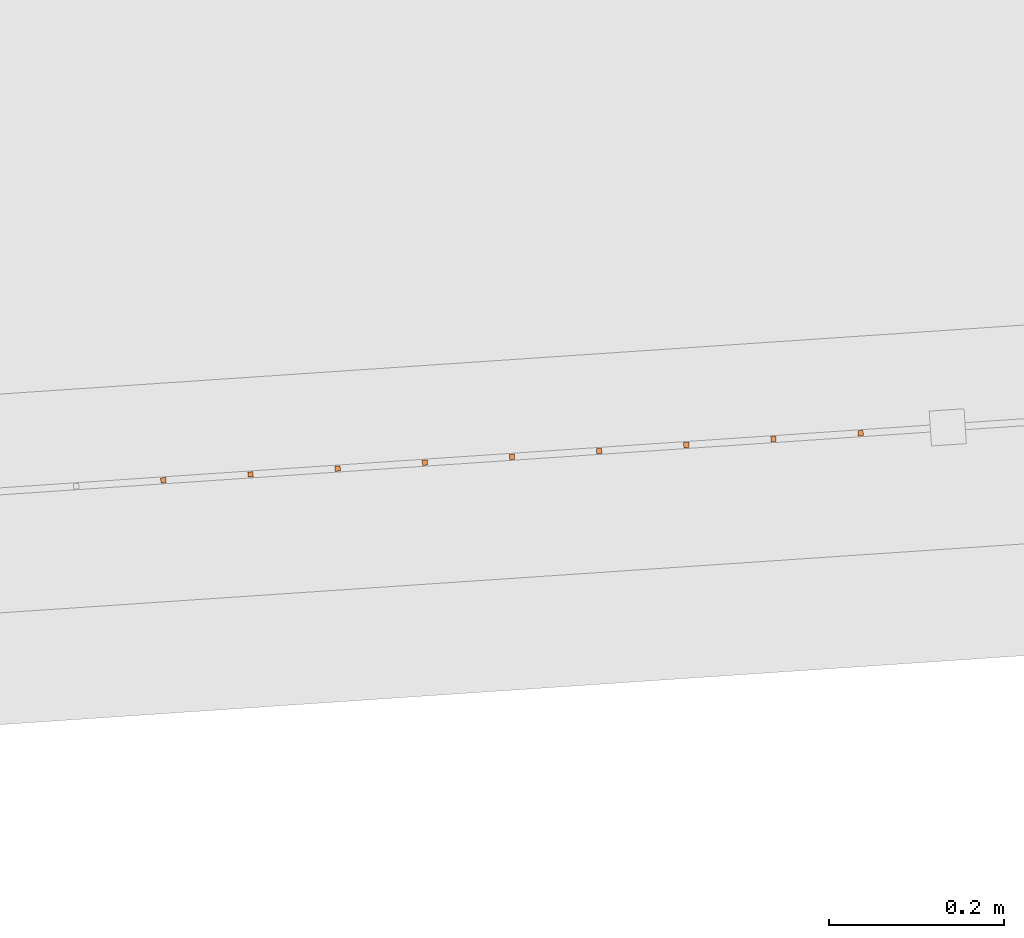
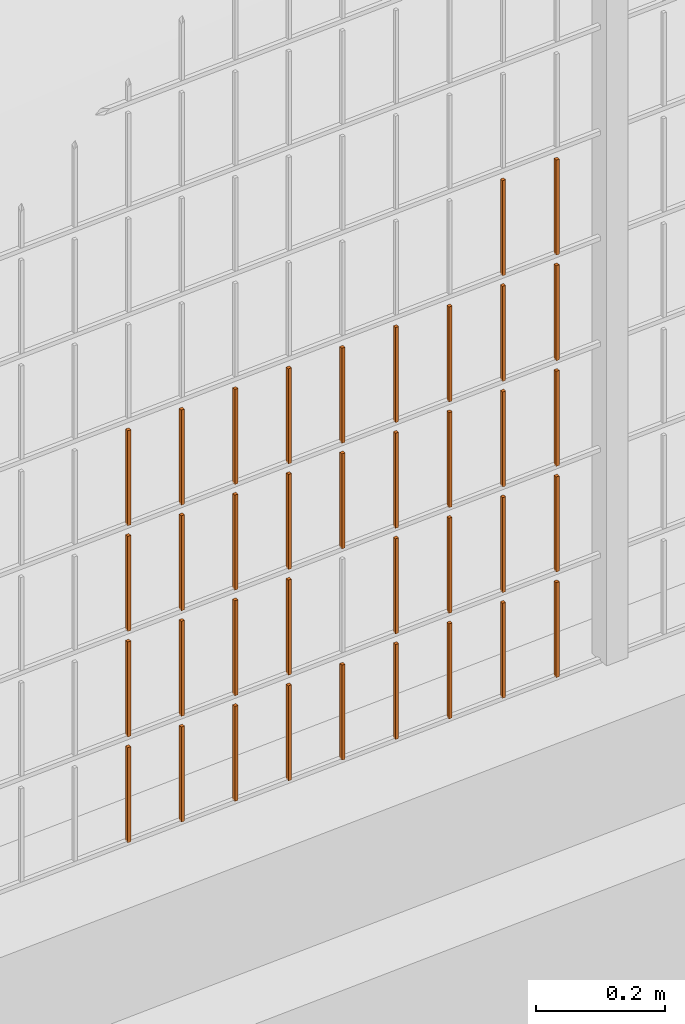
# One storey, part 193 of 1809: 37 proxies, 1 element without a shape of its own.
"""IFC2X3 building model written with IfcOpenShell, lengths in millimetres."""

from ifc_helpers import new_model, entity, si_unit, converted_unit, derived_unit, money_unit, direction, frame, origin_with_axes, place, context, subcontext, project, spatial, faceted_brep, source, transform, mapped, material, type_object, element, aggregate, save


model = new_model("IFC2X3")

# Units and contexts
model_context = context("Model", 3, precision=0.01, world=origin_with_axes(), true_north=direction((0.0, 1.0)))
body_context = subcontext(model_context, "Body", "Model", "MODEL_VIEW")
ifc_project = project(units=[si_unit("LENGTHUNIT", "METRE", prefix="MILLI"), si_unit("AREAUNIT", "SQUARE_METRE"), si_unit("VOLUMEUNIT", "CUBIC_METRE"), converted_unit("PLANEANGLEUNIT", "DEGREE", entity("IfcPlaneAngleMeasure", 0.0174532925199), si_unit("PLANEANGLEUNIT", "RADIAN"), dimensions=[0, 0, 0, 0, 0, 0, 0]), si_unit("SOLIDANGLEUNIT", "STERADIAN"), money_unit("EUR"), converted_unit("TIMEUNIT", "Year", entity("IfcTimeMeasure", 31556926.0), si_unit("TIMEUNIT", "SECOND"), dimensions=[0, 0, 1, 0, 0, 0, 0]), si_unit("MASSUNIT", "GRAM", prefix="KILO"), si_unit("THERMODYNAMICTEMPERATUREUNIT", "DEGREE_CELSIUS"), si_unit("LUMINOUSINTENSITYUNIT", "LUMEN"), si_unit("ENERGYUNIT", "JOULE", prefix="MEGA"), derived_unit("THERMALCONDUCTANCEUNIT", [(si_unit("POWERUNIT", "WATT"), 1), (si_unit("LENGTHUNIT", "METRE"), -1), (si_unit("THERMODYNAMICTEMPERATUREUNIT", "KELVIN"), -1)]), derived_unit("SPECIFICHEATCAPACITYUNIT", [(si_unit("ENERGYUNIT", "JOULE"), 1), (si_unit("MASSUNIT", "GRAM", prefix="KILO"), -1), (si_unit("THERMODYNAMICTEMPERATUREUNIT", "KELVIN"), -1)]), derived_unit("MASSDENSITYUNIT", [(si_unit("MASSUNIT", "GRAM", prefix="KILO"), 1), (si_unit("VOLUMEUNIT", "CUBIC_METRE"), -1)])], contexts=[model_context])

# Site, building, storey
site_placement = place(None, origin_with_axes())
site = spatial("IfcSite", under=ifc_project, at=site_placement, Name="Politse- ja Piirivalveameti ning Päästeameti ühishoone", CompositionType="ELEMENT")
building_placement = place(site_placement, origin_with_axes())
building = spatial("IfcBuilding", under=site, at=building_placement, Name="Politse- ja Piirivalveameti ning Päästeameti ühishoone", CompositionType="ELEMENT")
storey_placement = place(building_placement, origin_with_axes())
storey = spatial("IfcBuildingStorey", under=building, at=storey_placement, Name="Esimene korrus", CompositionType="ELEMENT", Elevation=0.0)

# Proxies
building_element_proxy_type_1 = type_object("IfcBuildingElementProxyType", Name="Railing Type", PredefinedType="NOTDEFINED")
proxy_1_placement = place(storey_placement, frame((89252.001212, -29183.4766571, 203.661247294), z_axis=(0.0, 0.0, 1.0), x_axis=(1.0, 0.0, 0.0)))
proxy_1 = element("IfcBuildingElementProxy", 1, at=proxy_1_placement, inside=storey, type_object=building_element_proxy_type_1, Name="PIIRDEAED")
ifc_material = material(Name="ET-03_Raud")
building_element_proxy_type_2 = type_object("IfcBuildingElementProxyType", Name="IfcBuildingElementProxy", PredefinedType="NOTDEFINED")
shared_shape_1 = source(origin_with_axes(), body_context, "Body", "Brep", [
    faceted_brep([(3.0, 3.0, -0.000752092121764), (-3.0, 3.0, -0.000752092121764), (-3.0, 3.0, 179.99926046), (3.0, 3.0, 179.99926046), (3.0, -3.0, 0.000752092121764), (-3.0, -3.0, 0.000752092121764), (-3.0, -3.0, 180.000764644), (3.0, -3.0, 180.000764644)], [[[0, 1, 2, 3]], [[0, 4, 5, 1]], [[1, 5, 6, 2]], [[3, 2, 6, 7]], [[4, 0, 3, 7]], [[5, 4, 7, 6]]]),
])
proxy_2_placement = place(proxy_1_placement, frame((-67971.8040041, -21889.0136057, 10.1552037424), z_axis=(0.0, 0.0, 1.0), x_axis=(1.0, 0.0, 0.0)))
proxy_2 = element("IfcBuildingElementProxy", 2, at=proxy_2_placement, type_object=building_element_proxy_type_2, material=ifc_material, Name="BALUSTER - 001", context=body_context, shape_type="MappedRepresentation", body=[
    mapped(shared_shape_1, transform((0.0, 0.0, 0.0), x_axis=(-0.0673926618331, 0.997726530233, 0.0), y_axis=(-0.997726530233, -0.0673926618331, 0.0), z_axis=(0.0, 0.0, 1.0))),
])
shared_shape_2 = source(origin_with_axes(), body_context, "Body", "Brep", [
    faceted_brep([(3.0, 3.0, -0.000752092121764), (-3.0, 3.0, -0.000752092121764), (-3.0, 3.0, 179.99926046), (3.0, 3.0, 179.99926046), (3.0, -3.0, 0.000752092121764), (-3.0, -3.0, 0.000752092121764), (-3.0, -3.0, 180.000764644), (3.0, -3.0, 180.000764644)], [[[0, 1, 2, 3]], [[0, 4, 5, 1]], [[1, 5, 6, 2]], [[3, 2, 6, 7]], [[4, 0, 3, 7]], [[5, 4, 7, 6]]]),
])
proxy_3_placement = place(proxy_1_placement, frame((-67971.8040041, -21889.0136057, 410.155203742), z_axis=(0.0, 0.0, 1.0), x_axis=(1.0, 0.0, 0.0)))
proxy_3 = element("IfcBuildingElementProxy", 3, at=proxy_3_placement, type_object=building_element_proxy_type_2, material=ifc_material, Name="BALUSTER - 001", context=body_context, shape_type="MappedRepresentation", body=[
    mapped(shared_shape_2, transform((0.0, 0.0, 0.0), x_axis=(-0.0673926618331, 0.997726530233, 0.0), y_axis=(-0.997726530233, -0.0673926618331, 0.0), z_axis=(0.0, 0.0, 1.0))),
])
shared_shape_3 = source(origin_with_axes(), body_context, "Body", "Brep", [
    faceted_brep([(3.0, 3.0, -0.000752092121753), (-3.0, 3.0, -0.000752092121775), (-3.0, 3.0, 179.99926046), (3.0, 3.0, 179.99926046), (3.0, -3.0, 0.000752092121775), (-3.0, -3.0, 0.000752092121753), (-3.0, -3.0, 180.000764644), (3.0, -3.0, 180.000764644)], [[[0, 1, 2, 3]], [[0, 4, 5, 1]], [[1, 5, 6, 2]], [[3, 2, 6, 7]], [[4, 0, 3, 7]], [[5, 4, 7, 6]]]),
])
proxy_4_placement = place(proxy_1_placement, frame((-67472.9407389, -21855.3172748, 410.280552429), z_axis=(0.0, 0.0, 1.0), x_axis=(1.0, 0.0, 0.0)))
proxy_4 = element("IfcBuildingElementProxy", 4, at=proxy_4_placement, type_object=building_element_proxy_type_2, material=ifc_material, Name="BALUSTER - 001", context=body_context, shape_type="MappedRepresentation", body=[
    mapped(shared_shape_3, transform((0.0, 0.0, 0.0), x_axis=(-0.0673926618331, 0.997726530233, 0.0), y_axis=(-0.997726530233, -0.0673926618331, 0.0), z_axis=(0.0, 0.0, 1.0))),
])
shared_shape_4 = source(origin_with_axes(), body_context, "Body", "Brep", [
    faceted_brep([(3.0, 3.0, -0.000752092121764), (-3.0, 3.0, -0.000752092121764), (-3.0, 3.0, 179.99926046), (3.0, 3.0, 179.99926046), (3.0, -3.0, 0.000752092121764), (-3.0, -3.0, 0.000752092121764), (-3.0, -3.0, 180.000764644), (3.0, -3.0, 180.000764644)], [[[0, 1, 2, 3]], [[0, 4, 5, 1]], [[1, 5, 6, 2]], [[3, 2, 6, 7]], [[4, 0, 3, 7]], [[5, 4, 7, 6]]]),
])
proxy_5_placement = place(proxy_1_placement, frame((-67971.8040041, -21889.0136057, 210.155203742), z_axis=(0.0, 0.0, 1.0), x_axis=(1.0, 0.0, 0.0)))
proxy_5 = element("IfcBuildingElementProxy", 5, at=proxy_5_placement, type_object=building_element_proxy_type_2, material=ifc_material, Name="BALUSTER - 001", context=body_context, shape_type="MappedRepresentation", body=[
    mapped(shared_shape_4, transform((0.0, 0.0, 0.0), x_axis=(-0.0673926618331, 0.997726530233, 0.0), y_axis=(-0.997726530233, -0.0673926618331, 0.0), z_axis=(0.0, 0.0, 1.0))),
])
shared_shape_5 = source(origin_with_axes(), body_context, "Body", "Brep", [
    faceted_brep([(3.0, 3.0, -0.000752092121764), (-3.0, 3.0, -0.000752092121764), (-3.0, 3.0, 179.99926046), (3.0, 3.0, 179.99926046), (3.0, -3.0, 0.000752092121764), (-3.0, -3.0, 0.000752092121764), (-3.0, -3.0, 180.000764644), (3.0, -3.0, 180.000764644)], [[[0, 1, 2, 3]], [[0, 4, 5, 1]], [[1, 5, 6, 2]], [[3, 2, 6, 7]], [[4, 0, 3, 7]], [[5, 4, 7, 6]]]),
])
proxy_6_placement = place(proxy_1_placement, frame((-67971.8040041, -21889.0136057, 610.155203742), z_axis=(0.0, 0.0, 1.0), x_axis=(1.0, 0.0, 0.0)))
proxy_6 = element("IfcBuildingElementProxy", 6, at=proxy_6_placement, type_object=building_element_proxy_type_2, material=ifc_material, Name="BALUSTER - 001", context=body_context, shape_type="MappedRepresentation", body=[
    mapped(shared_shape_5, transform((0.0, 0.0, 0.0), x_axis=(-0.0673926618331, 0.997726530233, 0.0), y_axis=(-0.997726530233, -0.0673926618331, 0.0), z_axis=(0.0, 0.0, 1.0))),
])
shared_shape_6 = source(origin_with_axes(), body_context, "Body", "Brep", [
    faceted_brep([(3.0, 3.0, -0.000752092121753), (-3.0, 3.0, -0.000752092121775), (-3.0, 3.0, 179.99926046), (3.0, 3.0, 179.99926046), (3.0, -3.0, 0.000752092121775), (-3.0, -3.0, 0.000752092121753), (-3.0, -3.0, 180.000764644), (3.0, -3.0, 180.000764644)], [[[0, 1, 2, 3]], [[0, 4, 5, 1]], [[1, 5, 6, 2]], [[3, 2, 6, 7]], [[4, 0, 3, 7]], [[5, 4, 7, 6]]]),
])
proxy_7_placement = place(proxy_1_placement, frame((-67472.9407389, -21855.3172748, 10.2805524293), z_axis=(0.0, 0.0, 1.0), x_axis=(1.0, 0.0, 0.0)))
proxy_7 = element("IfcBuildingElementProxy", 7, at=proxy_7_placement, type_object=building_element_proxy_type_2, material=ifc_material, Name="BALUSTER - 001", context=body_context, shape_type="MappedRepresentation", body=[
    mapped(shared_shape_6, transform((0.0, 0.0, 0.0), x_axis=(-0.0673926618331, 0.997726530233, 0.0), y_axis=(-0.997726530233, -0.0673926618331, 0.0), z_axis=(0.0, 0.0, 1.0))),
])
shared_shape_7 = source(origin_with_axes(), body_context, "Body", "Brep", [
    faceted_brep([(3.0, 3.0, -0.000752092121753), (-3.0, 3.0, -0.000752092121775), (-3.0, 3.0, 179.99926046), (3.0, 3.0, 179.99926046), (3.0, -3.0, 0.000752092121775), (-3.0, -3.0, 0.000752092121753), (-3.0, -3.0, 180.000764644), (3.0, -3.0, 180.000764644)], [[[0, 1, 2, 3]], [[0, 4, 5, 1]], [[1, 5, 6, 2]], [[3, 2, 6, 7]], [[4, 0, 3, 7]], [[5, 4, 7, 6]]]),
])
proxy_8_placement = place(proxy_1_placement, frame((-67472.9407389, -21855.3172748, 210.280552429), z_axis=(0.0, 0.0, 1.0), x_axis=(1.0, 0.0, 0.0)))
proxy_8 = element("IfcBuildingElementProxy", 8, at=proxy_8_placement, type_object=building_element_proxy_type_2, material=ifc_material, Name="BALUSTER - 001", context=body_context, shape_type="MappedRepresentation", body=[
    mapped(shared_shape_7, transform((0.0, 0.0, 0.0), x_axis=(-0.0673926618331, 0.997726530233, 0.0), y_axis=(-0.997726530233, -0.0673926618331, 0.0), z_axis=(0.0, 0.0, 1.0))),
])
proxy_9_placement = place(proxy_1_placement, frame((-67472.9407389, -21855.3172748, 610.280552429), z_axis=(0.0, 0.0, 1.0), x_axis=(1.0, 0.0, 0.0)))
proxy_9 = element("IfcBuildingElementProxy", 9, at=proxy_9_placement, type_object=building_element_proxy_type_2, material=ifc_material, Name="BALUSTER - 001", context=body_context, shape_type="MappedRepresentation", body=[
    mapped(shared_shape_7, transform((0.0, 0.0, 0.0), x_axis=(-0.0673926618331, 0.997726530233, 0.0), y_axis=(-0.997726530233, -0.0673926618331, 0.0), z_axis=(0.0, 0.0, 1.0))),
])
shared_shape_8 = source(origin_with_axes(), body_context, "Body", "Brep", [
    faceted_brep([(3.0, 3.0, -0.000752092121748), (-3.0, 3.0, -0.00075209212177), (-3.0, 3.0, 179.99926046), (3.0, 3.0, 179.99926046), (3.0, -3.0, 0.00075209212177), (-3.0, -3.0, 0.000752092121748), (-3.0, -3.0, 180.000764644), (3.0, -3.0, 180.000764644)], [[[0, 1, 2, 3]], [[0, 4, 5, 1]], [[1, 5, 6, 2]], [[3, 2, 6, 7]], [[4, 0, 3, 7]], [[5, 4, 7, 6]]]),
])
proxy_10_placement = place(proxy_1_placement, frame((-67373.1680859, -21848.5780086, 10.3056221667), z_axis=(0.0, 0.0, 1.0), x_axis=(1.0, 0.0, 0.0)))
proxy_10 = element("IfcBuildingElementProxy", 10, at=proxy_10_placement, type_object=building_element_proxy_type_2, material=ifc_material, Name="BALUSTER - 001", context=body_context, shape_type="MappedRepresentation", body=[
    mapped(shared_shape_8, transform((0.0, 0.0, 0.0), x_axis=(-0.0673926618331, 0.997726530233, 0.0), y_axis=(-0.997726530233, -0.0673926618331, 0.0), z_axis=(0.0, 0.0, 1.0))),
])
shared_shape_9 = source(origin_with_axes(), body_context, "Body", "Brep", [
    faceted_brep([(3.0, 3.0, -0.000752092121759), (-3.0, 3.0, -0.000752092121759), (-3.0, 3.0, 179.99926046), (3.0, 3.0, 179.99926046), (3.0, -3.0, 0.000752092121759), (-3.0, -3.0, 0.000752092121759), (-3.0, -3.0, 180.000764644), (3.0, -3.0, 180.000764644)], [[[0, 1, 2, 3]], [[0, 4, 5, 1]], [[1, 5, 6, 2]], [[3, 2, 6, 7]], [[4, 0, 3, 7]], [[5, 4, 7, 6]]]),
])
proxy_11_placement = place(proxy_1_placement, frame((-67273.3954329, -21841.8387425, 10.3306919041), z_axis=(0.0, 0.0, 1.0), x_axis=(1.0, 0.0, 0.0)))
proxy_11 = element("IfcBuildingElementProxy", 11, at=proxy_11_placement, type_object=building_element_proxy_type_2, material=ifc_material, Name="BALUSTER - 001", context=body_context, shape_type="MappedRepresentation", body=[
    mapped(shared_shape_9, transform((0.0, 0.0, 0.0), x_axis=(-0.0673926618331, 0.997726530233, 0.0), y_axis=(-0.997726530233, -0.0673926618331, 0.0), z_axis=(0.0, 0.0, 1.0))),
])
proxy_12_placement = place(proxy_1_placement, frame((-67772.258698, -21875.5350734, 10.2053432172), z_axis=(0.0, 0.0, 1.0), x_axis=(1.0, 0.0, 0.0)))
proxy_12 = element("IfcBuildingElementProxy", 12, at=proxy_12_placement, type_object=building_element_proxy_type_2, material=ifc_material, Name="BALUSTER - 001", context=body_context, shape_type="MappedRepresentation", body=[
    mapped(shared_shape_9, transform((0.0, 0.0, 0.0), x_axis=(-0.0673926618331, 0.997726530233, 0.0), y_axis=(-0.997726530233, -0.0673926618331, 0.0), z_axis=(0.0, 0.0, 1.0))),
])
shared_shape_10 = source(origin_with_axes(), body_context, "Body", "Brep", [
    faceted_brep([(3.0, 3.0, -0.000752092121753), (-3.0, 3.0, -0.000752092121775), (-3.0, 3.0, 179.99926046), (3.0, 3.0, 179.99926046), (3.0, -3.0, 0.000752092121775), (-3.0, -3.0, 0.000752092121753), (-3.0, -3.0, 180.000764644), (3.0, -3.0, 180.000764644)], [[[0, 1, 2, 3]], [[0, 4, 5, 1]], [[1, 5, 6, 2]], [[3, 2, 6, 7]], [[4, 0, 3, 7]], [[5, 4, 7, 6]]]),
])
proxy_13_placement = place(proxy_1_placement, frame((-67672.486045, -21868.7958072, 410.230412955), z_axis=(0.0, 0.0, 1.0), x_axis=(1.0, 0.0, 0.0)))
proxy_13 = element("IfcBuildingElementProxy", 13, at=proxy_13_placement, type_object=building_element_proxy_type_2, material=ifc_material, Name="BALUSTER - 001", context=body_context, shape_type="MappedRepresentation", body=[
    mapped(shared_shape_10, transform((0.0, 0.0, 0.0), x_axis=(-0.0673926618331, 0.997726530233, 0.0), y_axis=(-0.997726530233, -0.0673926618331, 0.0), z_axis=(0.0, 0.0, 1.0))),
])
proxy_14_placement = place(proxy_1_placement, frame((-67672.486045, -21868.7958072, 610.230412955), z_axis=(0.0, 0.0, 1.0), x_axis=(1.0, 0.0, 0.0)))
proxy_14 = element("IfcBuildingElementProxy", 14, at=proxy_14_placement, type_object=building_element_proxy_type_2, material=ifc_material, Name="BALUSTER - 001", context=body_context, shape_type="MappedRepresentation", body=[
    mapped(shared_shape_10, transform((0.0, 0.0, 0.0), x_axis=(-0.0673926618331, 0.997726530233, 0.0), y_axis=(-0.997726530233, -0.0673926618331, 0.0), z_axis=(0.0, 0.0, 1.0))),
])
shared_shape_11 = source(origin_with_axes(), body_context, "Body", "Brep", [
    faceted_brep([(3.0, 3.0, -0.000752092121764), (-3.0, 3.0, -0.000752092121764), (-3.0, 3.0, 179.99926046), (3.0, 3.0, 179.99926046), (3.0, -3.0, 0.000752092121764), (-3.0, -3.0, 0.000752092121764), (-3.0, -3.0, 180.000764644), (3.0, -3.0, 180.000764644)], [[[0, 1, 2, 3]], [[0, 4, 5, 1]], [[1, 5, 6, 2]], [[3, 2, 6, 7]], [[4, 0, 3, 7]], [[5, 4, 7, 6]]]),
])
proxy_15_placement = place(proxy_1_placement, frame((-67872.031351, -21882.2743396, 410.18027348), z_axis=(0.0, 0.0, 1.0), x_axis=(1.0, 0.0, 0.0)))
proxy_15 = element("IfcBuildingElementProxy", 15, at=proxy_15_placement, type_object=building_element_proxy_type_2, material=ifc_material, Name="BALUSTER - 001", context=body_context, shape_type="MappedRepresentation", body=[
    mapped(shared_shape_11, transform((0.0, 0.0, 0.0), x_axis=(-0.0673926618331, 0.997726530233, 0.0), y_axis=(-0.997726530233, -0.0673926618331, 0.0), z_axis=(0.0, 0.0, 1.0))),
])
shared_shape_12 = source(origin_with_axes(), body_context, "Body", "Brep", [
    faceted_brep([(3.0, 3.0, -0.000752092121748), (-3.0, 3.0, -0.00075209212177), (-3.0, 3.0, 179.99926046), (3.0, 3.0, 179.99926046), (3.0, -3.0, 0.00075209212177), (-3.0, -3.0, 0.000752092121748), (-3.0, -3.0, 180.000764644), (3.0, -3.0, 180.000764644)], [[[0, 1, 2, 3]], [[0, 4, 5, 1]], [[1, 5, 6, 2]], [[3, 2, 6, 7]], [[4, 0, 3, 7]], [[5, 4, 7, 6]]]),
])
proxy_16_placement = place(proxy_1_placement, frame((-67373.1680859, -21848.5780086, 210.305622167), z_axis=(0.0, 0.0, 1.0), x_axis=(1.0, 0.0, 0.0)))
proxy_16 = element("IfcBuildingElementProxy", 16, at=proxy_16_placement, type_object=building_element_proxy_type_2, material=ifc_material, Name="BALUSTER - 001", context=body_context, shape_type="MappedRepresentation", body=[
    mapped(shared_shape_12, transform((0.0, 0.0, 0.0), x_axis=(-0.0673926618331, 0.997726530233, 0.0), y_axis=(-0.997726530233, -0.0673926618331, 0.0), z_axis=(0.0, 0.0, 1.0))),
])
proxy_17_placement = place(proxy_1_placement, frame((-67373.1680859, -21848.5780086, 410.305622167), z_axis=(0.0, 0.0, 1.0), x_axis=(1.0, 0.0, 0.0)))
proxy_17 = element("IfcBuildingElementProxy", 17, at=proxy_17_placement, type_object=building_element_proxy_type_2, material=ifc_material, Name="BALUSTER - 001", context=body_context, shape_type="MappedRepresentation", body=[
    mapped(shared_shape_12, transform((0.0, 0.0, 0.0), x_axis=(-0.0673926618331, 0.997726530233, 0.0), y_axis=(-0.997726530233, -0.0673926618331, 0.0), z_axis=(0.0, 0.0, 1.0))),
])
shared_shape_13 = source(origin_with_axes(), body_context, "Body", "Brep", [
    faceted_brep([(3.0, 3.0, -0.000752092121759), (-3.0, 3.0, -0.000752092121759), (-3.0, 3.0, 179.99926046), (3.0, 3.0, 179.99926046), (3.0, -3.0, 0.000752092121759), (-3.0, -3.0, 0.000752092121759), (-3.0, -3.0, 180.000764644), (3.0, -3.0, 180.000764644)], [[[0, 1, 2, 3]], [[0, 4, 5, 1]], [[1, 5, 6, 2]], [[3, 2, 6, 7]], [[4, 0, 3, 7]], [[5, 4, 7, 6]]]),
])
proxy_18_placement = place(proxy_1_placement, frame((-67273.3954329, -21841.8387425, 410.330691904), z_axis=(0.0, 0.0, 1.0), x_axis=(1.0, 0.0, 0.0)))
proxy_18 = element("IfcBuildingElementProxy", 18, at=proxy_18_placement, type_object=building_element_proxy_type_2, material=ifc_material, Name="BALUSTER - 001", context=body_context, shape_type="MappedRepresentation", body=[
    mapped(shared_shape_13, transform((0.0, 0.0, 0.0), x_axis=(-0.0673926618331, 0.997726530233, 0.0), y_axis=(-0.997726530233, -0.0673926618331, 0.0), z_axis=(0.0, 0.0, 1.0))),
])
proxy_19_placement = place(proxy_1_placement, frame((-67772.258698, -21875.5350734, 610.205343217), z_axis=(0.0, 0.0, 1.0), x_axis=(1.0, 0.0, 0.0)))
proxy_19 = element("IfcBuildingElementProxy", 19, at=proxy_19_placement, type_object=building_element_proxy_type_2, material=ifc_material, Name="BALUSTER - 001", context=body_context, shape_type="MappedRepresentation", body=[
    mapped(shared_shape_13, transform((0.0, 0.0, 0.0), x_axis=(-0.0673926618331, 0.997726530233, 0.0), y_axis=(-0.997726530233, -0.0673926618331, 0.0), z_axis=(0.0, 0.0, 1.0))),
])
shared_shape_14 = source(origin_with_axes(), body_context, "Body", "Brep", [
    faceted_brep([(3.0, 3.0, -0.000752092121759), (-3.0, 3.0, -0.000752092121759), (-3.0, 3.0, 179.99926046), (3.0, 3.0, 179.99926046), (3.0, -3.0, 0.000752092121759), (-3.0, -3.0, 0.000752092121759), (-3.0, -3.0, 180.000764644), (3.0, -3.0, 180.000764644)], [[[0, 1, 2, 3]], [[0, 4, 5, 1]], [[1, 5, 6, 2]], [[3, 2, 6, 7]], [[4, 0, 3, 7]], [[5, 4, 7, 6]]]),
])
proxy_20_placement = place(proxy_1_placement, frame((-67772.258698, -21875.5350734, 410.205343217), z_axis=(0.0, 0.0, 1.0), x_axis=(1.0, 0.0, 0.0)))
proxy_20 = element("IfcBuildingElementProxy", 20, at=proxy_20_placement, type_object=building_element_proxy_type_2, material=ifc_material, Name="BALUSTER - 001", context=body_context, shape_type="MappedRepresentation", body=[
    mapped(shared_shape_14, transform((0.0, 0.0, 0.0), x_axis=(-0.0673926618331, 0.997726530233, 0.0), y_axis=(-0.997726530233, -0.0673926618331, 0.0), z_axis=(0.0, 0.0, 1.0))),
])
proxy_21_placement = place(proxy_1_placement, frame((-67273.3954329, -21841.8387425, 810.330691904), z_axis=(0.0, 0.0, 1.0), x_axis=(1.0, 0.0, 0.0)))
proxy_21 = element("IfcBuildingElementProxy", 21, at=proxy_21_placement, type_object=building_element_proxy_type_2, material=ifc_material, Name="BALUSTER - 001", context=body_context, shape_type="MappedRepresentation", body=[
    mapped(shared_shape_14, transform((0.0, 0.0, 0.0), x_axis=(-0.0673926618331, 0.997726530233, 0.0), y_axis=(-0.997726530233, -0.0673926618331, 0.0), z_axis=(0.0, 0.0, 1.0))),
])
shared_shape_15 = source(origin_with_axes(), body_context, "Body", "Brep", [
    faceted_brep([(3.0, 3.0, -0.000752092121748), (-3.0, 3.0, -0.00075209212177), (-3.0, 3.0, 179.99926046), (3.0, 3.0, 179.99926046), (3.0, -3.0, 0.00075209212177), (-3.0, -3.0, 0.000752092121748), (-3.0, -3.0, 180.000764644), (3.0, -3.0, 180.000764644)], [[[0, 1, 2, 3]], [[0, 4, 5, 1]], [[1, 5, 6, 2]], [[3, 2, 6, 7]], [[4, 0, 3, 7]], [[5, 4, 7, 6]]]),
])
proxy_22_placement = place(proxy_1_placement, frame((-67373.1680859, -21848.5780086, 610.305622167), z_axis=(0.0, 0.0, 1.0), x_axis=(1.0, 0.0, 0.0)))
proxy_22 = element("IfcBuildingElementProxy", 22, at=proxy_22_placement, type_object=building_element_proxy_type_2, material=ifc_material, Name="BALUSTER - 001", context=body_context, shape_type="MappedRepresentation", body=[
    mapped(shared_shape_15, transform((0.0, 0.0, 0.0), x_axis=(-0.0673926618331, 0.997726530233, 0.0), y_axis=(-0.997726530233, -0.0673926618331, 0.0), z_axis=(0.0, 0.0, 1.0))),
])
proxy_23_placement = place(proxy_1_placement, frame((-67373.1680859, -21848.5780086, 810.305622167), z_axis=(0.0, 0.0, 1.0), x_axis=(1.0, 0.0, 0.0)))
proxy_23 = element("IfcBuildingElementProxy", 23, at=proxy_23_placement, type_object=building_element_proxy_type_2, material=ifc_material, Name="BALUSTER - 001", context=body_context, shape_type="MappedRepresentation", body=[
    mapped(shared_shape_15, transform((0.0, 0.0, 0.0), x_axis=(-0.0673926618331, 0.997726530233, 0.0), y_axis=(-0.997726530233, -0.0673926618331, 0.0), z_axis=(0.0, 0.0, 1.0))),
])
shared_shape_16 = source(origin_with_axes(), body_context, "Body", "Brep", [
    faceted_brep([(3.0, 3.0, -0.000752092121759), (-3.0, 3.0, -0.000752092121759), (-3.0, 3.0, 179.99926046), (3.0, 3.0, 179.99926046), (3.0, -3.0, 0.000752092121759), (-3.0, -3.0, 0.000752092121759), (-3.0, -3.0, 180.000764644), (3.0, -3.0, 180.000764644)], [[[0, 1, 2, 3]], [[0, 4, 5, 1]], [[1, 5, 6, 2]], [[3, 2, 6, 7]], [[4, 0, 3, 7]], [[5, 4, 7, 6]]]),
])
proxy_24_placement = place(proxy_1_placement, frame((-67273.3954329, -21841.8387425, 610.330691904), z_axis=(0.0, 0.0, 1.0), x_axis=(1.0, 0.0, 0.0)))
proxy_24 = element("IfcBuildingElementProxy", 24, at=proxy_24_placement, type_object=building_element_proxy_type_2, material=ifc_material, Name="BALUSTER - 001", context=body_context, shape_type="MappedRepresentation", body=[
    mapped(shared_shape_16, transform((0.0, 0.0, 0.0), x_axis=(-0.0673926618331, 0.997726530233, 0.0), y_axis=(-0.997726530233, -0.0673926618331, 0.0), z_axis=(0.0, 0.0, 1.0))),
])
shared_shape_17 = source(origin_with_axes(), body_context, "Body", "Brep", [
    faceted_brep([(3.0, 3.0, -0.000752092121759), (-3.0, 3.0, -0.000752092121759), (-3.0, 3.0, 179.99926046), (3.0, 3.0, 179.99926046), (3.0, -3.0, 0.000752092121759), (-3.0, -3.0, 0.000752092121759), (-3.0, -3.0, 180.000764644), (3.0, -3.0, 180.000764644)], [[[0, 1, 2, 3]], [[0, 4, 5, 1]], [[1, 5, 6, 2]], [[3, 2, 6, 7]], [[4, 0, 3, 7]], [[5, 4, 7, 6]]]),
])
proxy_25_placement = place(proxy_1_placement, frame((-67273.3954329, -21841.8387425, 210.330691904), z_axis=(0.0, 0.0, 1.0), x_axis=(1.0, 0.0, 0.0)))
proxy_25 = element("IfcBuildingElementProxy", 25, at=proxy_25_placement, type_object=building_element_proxy_type_2, material=ifc_material, Name="BALUSTER - 001", context=body_context, shape_type="MappedRepresentation", body=[
    mapped(shared_shape_17, transform((0.0, 0.0, 0.0), x_axis=(-0.0673926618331, 0.997726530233, 0.0), y_axis=(-0.997726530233, -0.0673926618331, 0.0), z_axis=(0.0, 0.0, 1.0))),
])
shared_shape_18 = source(origin_with_axes(), body_context, "Body", "Brep", [
    faceted_brep([(3.0, 3.0, -0.000752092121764), (-3.0, 3.0, -0.000752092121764), (-3.0, 3.0, 179.99926046), (3.0, 3.0, 179.99926046), (3.0, -3.0, 0.000752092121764), (-3.0, -3.0, 0.000752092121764), (-3.0, -3.0, 180.000764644), (3.0, -3.0, 180.000764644)], [[[0, 1, 2, 3]], [[0, 4, 5, 1]], [[1, 5, 6, 2]], [[3, 2, 6, 7]], [[4, 0, 3, 7]], [[5, 4, 7, 6]]]),
])
proxy_26_placement = place(proxy_1_placement, frame((-67872.031351, -21882.2743396, 10.1802734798), z_axis=(0.0, 0.0, 1.0), x_axis=(1.0, 0.0, 0.0)))
proxy_26 = element("IfcBuildingElementProxy", 26, at=proxy_26_placement, type_object=building_element_proxy_type_2, material=ifc_material, Name="BALUSTER - 001", context=body_context, shape_type="MappedRepresentation", body=[
    mapped(shared_shape_18, transform((0.0, 0.0, 0.0), x_axis=(-0.0673926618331, 0.997726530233, 0.0), y_axis=(-0.997726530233, -0.0673926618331, 0.0), z_axis=(0.0, 0.0, 1.0))),
])
proxy_27_placement = place(proxy_1_placement, frame((-67872.031351, -21882.2743396, 210.18027348), z_axis=(0.0, 0.0, 1.0), x_axis=(1.0, 0.0, 0.0)))
proxy_27 = element("IfcBuildingElementProxy", 27, at=proxy_27_placement, type_object=building_element_proxy_type_2, material=ifc_material, Name="BALUSTER - 001", context=body_context, shape_type="MappedRepresentation", body=[
    mapped(shared_shape_18, transform((0.0, 0.0, 0.0), x_axis=(-0.0673926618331, 0.997726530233, 0.0), y_axis=(-0.997726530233, -0.0673926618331, 0.0), z_axis=(0.0, 0.0, 1.0))),
])
shared_shape_19 = source(origin_with_axes(), body_context, "Body", "Brep", [
    faceted_brep([(3.0, 3.0, -0.000752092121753), (-3.0, 3.0, -0.000752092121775), (-3.0, 3.0, 179.99926046), (3.0, 3.0, 179.99926046), (3.0, -3.0, 0.000752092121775), (-3.0, -3.0, 0.000752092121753), (-3.0, -3.0, 180.000764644), (3.0, -3.0, 180.000764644)], [[[0, 1, 2, 3]], [[0, 4, 5, 1]], [[1, 5, 6, 2]], [[3, 2, 6, 7]], [[4, 0, 3, 7]], [[5, 4, 7, 6]]]),
])
proxy_28_placement = place(proxy_1_placement, frame((-67572.713392, -21862.056541, 10.2554826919), z_axis=(0.0, 0.0, 1.0), x_axis=(1.0, 0.0, 0.0)))
proxy_28 = element("IfcBuildingElementProxy", 28, at=proxy_28_placement, type_object=building_element_proxy_type_2, material=ifc_material, Name="BALUSTER - 001", context=body_context, shape_type="MappedRepresentation", body=[
    mapped(shared_shape_19, transform((0.0, 0.0, 0.0), x_axis=(-0.0673926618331, 0.997726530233, 0.0), y_axis=(-0.997726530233, -0.0673926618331, 0.0), z_axis=(0.0, 0.0, 1.0))),
])
proxy_29_placement = place(proxy_1_placement, frame((-68071.5766571, -21895.7528719, 10.130134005), z_axis=(0.0, 0.0, 1.0), x_axis=(1.0, 0.0, 0.0)))
proxy_29 = element("IfcBuildingElementProxy", 29, at=proxy_29_placement, type_object=building_element_proxy_type_2, material=ifc_material, Name="BALUSTER - 001", context=body_context, shape_type="MappedRepresentation", body=[
    mapped(shared_shape_19, transform((0.0, 0.0, 0.0), x_axis=(-0.0673926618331, 0.997726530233, 0.0), y_axis=(-0.997726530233, -0.0673926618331, 0.0), z_axis=(0.0, 0.0, 1.0))),
])
shared_shape_20 = source(origin_with_axes(), body_context, "Body", "Brep", [
    faceted_brep([(3.0, 3.0, -0.000752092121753), (-3.0, 3.0, -0.000752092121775), (-3.0, 3.0, 179.99926046), (3.0, 3.0, 179.99926046), (3.0, -3.0, 0.000752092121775), (-3.0, -3.0, 0.000752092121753), (-3.0, -3.0, 180.000764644), (3.0, -3.0, 180.000764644)], [[[0, 1, 2, 3]], [[0, 4, 5, 1]], [[1, 5, 6, 2]], [[3, 2, 6, 7]], [[4, 0, 3, 7]], [[5, 4, 7, 6]]]),
])
proxy_30_placement = place(proxy_1_placement, frame((-67672.486045, -21868.7958072, 10.2304129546), z_axis=(0.0, 0.0, 1.0), x_axis=(1.0, 0.0, 0.0)))
proxy_30 = element("IfcBuildingElementProxy", 30, at=proxy_30_placement, type_object=building_element_proxy_type_2, material=ifc_material, Name="BALUSTER - 001", context=body_context, shape_type="MappedRepresentation", body=[
    mapped(shared_shape_20, transform((0.0, 0.0, 0.0), x_axis=(-0.0673926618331, 0.997726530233, 0.0), y_axis=(-0.997726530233, -0.0673926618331, 0.0), z_axis=(0.0, 0.0, 1.0))),
])
shared_shape_21 = source(origin_with_axes(), body_context, "Body", "Brep", [
    faceted_brep([(3.0, 3.0, -0.000752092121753), (-3.0, 3.0, -0.000752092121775), (-3.0, 3.0, 179.99926046), (3.0, 3.0, 179.99926046), (3.0, -3.0, 0.000752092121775), (-3.0, -3.0, 0.000752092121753), (-3.0, -3.0, 180.000764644), (3.0, -3.0, 180.000764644)], [[[0, 1, 2, 3]], [[0, 4, 5, 1]], [[1, 5, 6, 2]], [[3, 2, 6, 7]], [[4, 0, 3, 7]], [[5, 4, 7, 6]]]),
])
proxy_31_placement = place(proxy_1_placement, frame((-67572.713392, -21862.056541, 610.255482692), z_axis=(0.0, 0.0, 1.0), x_axis=(1.0, 0.0, 0.0)))
proxy_31 = element("IfcBuildingElementProxy", 31, at=proxy_31_placement, type_object=building_element_proxy_type_2, material=ifc_material, Name="BALUSTER - 001", context=body_context, shape_type="MappedRepresentation", body=[
    mapped(shared_shape_21, transform((0.0, 0.0, 0.0), x_axis=(-0.0673926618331, 0.997726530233, 0.0), y_axis=(-0.997726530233, -0.0673926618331, 0.0), z_axis=(0.0, 0.0, 1.0))),
])
shared_shape_22 = source(origin_with_axes(), body_context, "Body", "Brep", [
    faceted_brep([(3.0, 3.0, -0.000752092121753), (-3.0, 3.0, -0.000752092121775), (-3.0, 3.0, 179.99926046), (3.0, 3.0, 179.99926046), (3.0, -3.0, 0.000752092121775), (-3.0, -3.0, 0.000752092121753), (-3.0, -3.0, 180.000764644), (3.0, -3.0, 180.000764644)], [[[0, 1, 2, 3]], [[0, 4, 5, 1]], [[1, 5, 6, 2]], [[3, 2, 6, 7]], [[4, 0, 3, 7]], [[5, 4, 7, 6]]]),
])
proxy_32_placement = place(proxy_1_placement, frame((-67572.713392, -21862.056541, 210.255482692), z_axis=(0.0, 0.0, 1.0), x_axis=(1.0, 0.0, 0.0)))
proxy_32 = element("IfcBuildingElementProxy", 32, at=proxy_32_placement, type_object=building_element_proxy_type_2, material=ifc_material, Name="BALUSTER - 001", context=body_context, shape_type="MappedRepresentation", body=[
    mapped(shared_shape_22, transform((0.0, 0.0, 0.0), x_axis=(-0.0673926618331, 0.997726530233, 0.0), y_axis=(-0.997726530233, -0.0673926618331, 0.0), z_axis=(0.0, 0.0, 1.0))),
])
proxy_33_placement = place(proxy_1_placement, frame((-68071.5766571, -21895.7528719, 210.130134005), z_axis=(0.0, 0.0, 1.0), x_axis=(1.0, 0.0, 0.0)))
proxy_33 = element("IfcBuildingElementProxy", 33, at=proxy_33_placement, type_object=building_element_proxy_type_2, material=ifc_material, Name="BALUSTER - 001", context=body_context, shape_type="MappedRepresentation", body=[
    mapped(shared_shape_22, transform((0.0, 0.0, 0.0), x_axis=(-0.0673926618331, 0.997726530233, 0.0), y_axis=(-0.997726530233, -0.0673926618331, 0.0), z_axis=(0.0, 0.0, 1.0))),
])
proxy_34_placement = place(proxy_1_placement, frame((-67572.713392, -21862.056541, 410.255482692), z_axis=(0.0, 0.0, 1.0), x_axis=(1.0, 0.0, 0.0)))
proxy_34 = element("IfcBuildingElementProxy", 34, at=proxy_34_placement, type_object=building_element_proxy_type_2, material=ifc_material, Name="BALUSTER - 001", context=body_context, shape_type="MappedRepresentation", body=[
    mapped(shared_shape_22, transform((0.0, 0.0, 0.0), x_axis=(-0.0673926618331, 0.997726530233, 0.0), y_axis=(-0.997726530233, -0.0673926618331, 0.0), z_axis=(0.0, 0.0, 1.0))),
])
proxy_35_placement = place(proxy_1_placement, frame((-68071.5766571, -21895.7528719, 410.130134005), z_axis=(0.0, 0.0, 1.0), x_axis=(1.0, 0.0, 0.0)))
proxy_35 = element("IfcBuildingElementProxy", 35, at=proxy_35_placement, type_object=building_element_proxy_type_2, material=ifc_material, Name="BALUSTER - 001", context=body_context, shape_type="MappedRepresentation", body=[
    mapped(shared_shape_22, transform((0.0, 0.0, 0.0), x_axis=(-0.0673926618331, 0.997726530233, 0.0), y_axis=(-0.997726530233, -0.0673926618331, 0.0), z_axis=(0.0, 0.0, 1.0))),
])
proxy_36_placement = place(proxy_1_placement, frame((-68071.5766571, -21895.7528719, 610.130134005), z_axis=(0.0, 0.0, 1.0), x_axis=(1.0, 0.0, 0.0)))
proxy_36 = element("IfcBuildingElementProxy", 36, at=proxy_36_placement, type_object=building_element_proxy_type_2, material=ifc_material, Name="BALUSTER - 001", context=body_context, shape_type="MappedRepresentation", body=[
    mapped(shared_shape_22, transform((0.0, 0.0, 0.0), x_axis=(-0.0673926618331, 0.997726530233, 0.0), y_axis=(-0.997726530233, -0.0673926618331, 0.0), z_axis=(0.0, 0.0, 1.0))),
])
shared_shape_23 = source(origin_with_axes(), body_context, "Body", "Brep", [
    faceted_brep([(3.0, 3.0, -0.000752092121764), (-3.0, 3.0, -0.000752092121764), (-3.0, 3.0, 179.99926046), (3.0, 3.0, 179.99926046), (3.0, -3.0, 0.000752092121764), (-3.0, -3.0, 0.000752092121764), (-3.0, -3.0, 180.000764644), (3.0, -3.0, 180.000764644)], [[[0, 1, 2, 3]], [[0, 4, 5, 1]], [[1, 5, 6, 2]], [[3, 2, 6, 7]], [[4, 0, 3, 7]], [[5, 4, 7, 6]]]),
])
proxy_37_placement = place(proxy_1_placement, frame((-67872.031351, -21882.2743396, 610.18027348), z_axis=(0.0, 0.0, 1.0), x_axis=(1.0, 0.0, 0.0)))
proxy_37 = element("IfcBuildingElementProxy", 37, at=proxy_37_placement, type_object=building_element_proxy_type_2, material=ifc_material, Name="BALUSTER - 001", context=body_context, shape_type="MappedRepresentation", body=[
    mapped(shared_shape_23, transform((0.0, 0.0, 0.0), x_axis=(-0.0673926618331, 0.997726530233, 0.0), y_axis=(-0.997726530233, -0.0673926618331, 0.0), z_axis=(0.0, 0.0, 1.0))),
])
shared_shape_24 = source(origin_with_axes(), body_context, "Body", "Brep", [
    faceted_brep([(3.0, 3.0, -0.000752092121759), (-3.0, 3.0, -0.000752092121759), (-3.0, 3.0, 179.99926046), (3.0, 3.0, 179.99926046), (3.0, -3.0, 0.000752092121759), (-3.0, -3.0, 0.000752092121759), (-3.0, -3.0, 180.000764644), (3.0, -3.0, 180.000764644)], [[[0, 1, 2, 3]], [[0, 4, 5, 1]], [[1, 5, 6, 2]], [[3, 2, 6, 7]], [[4, 0, 3, 7]], [[5, 4, 7, 6]]]),
])
proxy_38_placement = place(proxy_1_placement, frame((-67772.258698, -21875.5350734, 210.205343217), z_axis=(0.0, 0.0, 1.0), x_axis=(1.0, 0.0, 0.0)))
proxy_38 = element("IfcBuildingElementProxy", 38, at=proxy_38_placement, type_object=building_element_proxy_type_2, material=ifc_material, Name="BALUSTER - 001", context=body_context, shape_type="MappedRepresentation", body=[
    mapped(shared_shape_24, transform((0.0, 0.0, 0.0), x_axis=(-0.0673926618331, 0.997726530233, 0.0), y_axis=(-0.997726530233, -0.0673926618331, 0.0), z_axis=(0.0, 0.0, 1.0))),
])
aggregate(proxy_1, [proxy_11, proxy_10, proxy_7, proxy_28, proxy_30, proxy_12, proxy_26, proxy_2, proxy_29, proxy_25, proxy_16, proxy_8, proxy_32, proxy_38, proxy_27, proxy_5, proxy_33, proxy_18, proxy_17, proxy_4, proxy_34, proxy_13, proxy_20, proxy_15, proxy_3, proxy_35, proxy_24, proxy_22, proxy_9, proxy_31, proxy_14, proxy_19, proxy_37, proxy_6, proxy_36, proxy_21, proxy_23])

save(model, "model.ifc")
